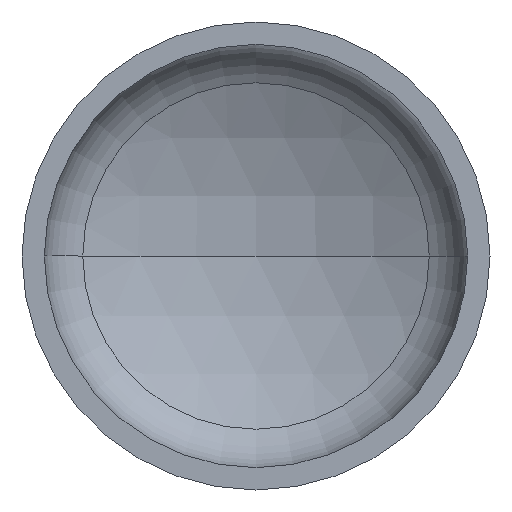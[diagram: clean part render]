
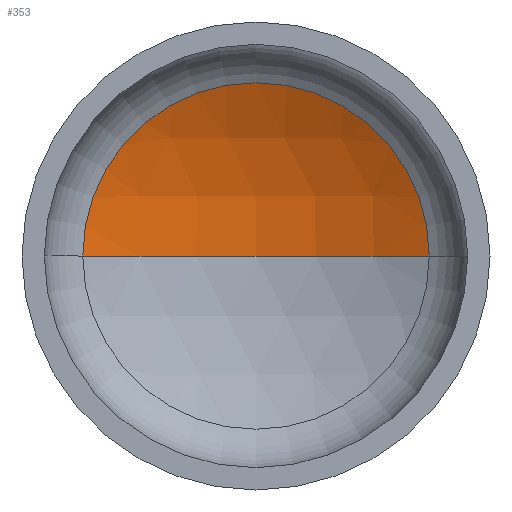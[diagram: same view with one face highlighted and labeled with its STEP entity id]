
A CAD part, front view. The second image highlights one B-rep face of the part: STEP entity #353.
In plain terms, the highlighted spherical face has radius 1440 mm.
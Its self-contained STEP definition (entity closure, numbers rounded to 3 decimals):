
#5 = VERTEX_POINT ( 'NONE', #269 ) ;
#16 = EDGE_LOOP ( 'NONE', ( #102, #39, #89 ) ) ;
#20 = DIRECTION ( 'NONE',  ( 1., 0., 0. ) ) ;
#23 = DIRECTION ( 'NONE',  ( 0., -1., 0. ) ) ;
#26 = CARTESIAN_POINT ( 'NONE',  ( 0., 343.797, 0. ) ) ;
#39 = ORIENTED_EDGE ( 'NONE', *, *, #178, .T. ) ;
#63 = AXIS2_PLACEMENT_3D ( 'NONE', #298, #318, #283 ) ;
#78 = VERTEX_POINT ( 'NONE', #329 ) ;
#83 = AXIS2_PLACEMENT_3D ( 'NONE', #215, #216, #222 ) ;
#86 = AXIS2_PLACEMENT_3D ( 'NONE', #380, #228, #257 ) ;
#89 = ORIENTED_EDGE ( 'NONE', *, *, #177, .T. ) ;
#93 = AXIS2_PLACEMENT_3D ( 'NONE', #26, #23, #20 ) ;
#102 = ORIENTED_EDGE ( 'NONE', *, *, #180, .F. ) ;
#106 = VERTEX_POINT ( 'NONE', #321 ) ;
#177 = EDGE_CURVE ( 'NONE', #106, #5, #394, .T. ) ;
#178 = EDGE_CURVE ( 'NONE', #78, #106, #340, .T. ) ;
#180 = EDGE_CURVE ( 'NONE', #78, #5, #282, .T. ) ;
#215 = CARTESIAN_POINT ( 'NONE',  ( 0., -932.814, 0. ) ) ;
#216 = DIRECTION ( 'NONE',  ( 0., 0., 1. ) ) ;
#222 = DIRECTION ( 'NONE',  ( 1., 0., 0. ) ) ;
#228 = DIRECTION ( 'NONE',  ( 0., 0., -1. ) ) ;
#257 = DIRECTION ( 'NONE',  ( -1., 0., 0. ) ) ;
#269 = CARTESIAN_POINT ( 'NONE',  ( -666.232, 343.797, 0. ) ) ;
#282 = CIRCLE ( 'NONE', #83, 1440. ) ;
#283 = DIRECTION ( 'NONE',  ( -1., 0., 0. ) ) ;
#298 = CARTESIAN_POINT ( 'NONE',  ( 0., -932.814, 0. ) ) ;
#318 = DIRECTION ( 'NONE',  ( 0., 0., -1. ) ) ;
#321 = CARTESIAN_POINT ( 'NONE',  ( 666.232, 343.797, 0. ) ) ;
#329 = CARTESIAN_POINT ( 'NONE',  ( 0., 507.186, 0. ) ) ;
#340 = CIRCLE ( 'NONE', #86, 1440. ) ;
#353 = ADVANCED_FACE ( 'NONE', ( #375 ), #372, .F. ) ;
#372 = SPHERICAL_SURFACE ( 'NONE', #63, 1440. ) ;
#375 = FACE_OUTER_BOUND ( 'NONE', #16, .T. ) ;
#380 = CARTESIAN_POINT ( 'NONE',  ( 0., -932.814, 0. ) ) ;
#394 = CIRCLE ( 'NONE', #93, 666.232 ) ;
